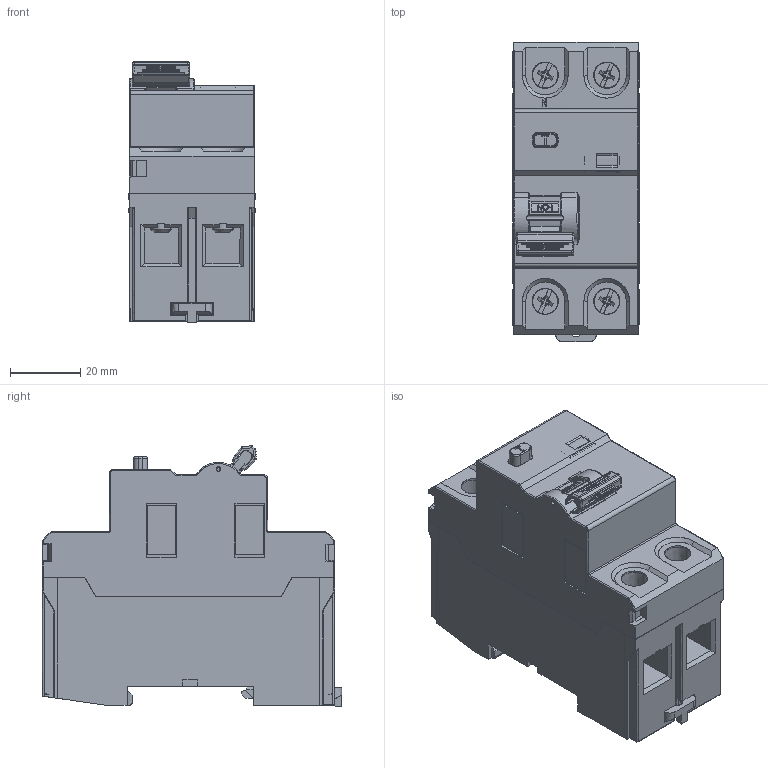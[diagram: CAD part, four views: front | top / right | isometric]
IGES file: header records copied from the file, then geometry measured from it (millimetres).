
Start section: SolidWorks IGES file using analytic representation for surfaces
Global section: file name: \\Brjgs100\dfsweg\GROUPS\BR_SC_JGS_WA_TECNICO\ENG\Usuarios\Rodrigob\conversão\Linha Predial\Produto\Interruptores diferenciais-residuais RDW\RDW\RDW-RDWS-RDWH_2\RDW-RDWS-RDWH_2.IGS; native system: SolidWorks 2018; preprocessor: SolidWorks 2018; author: rodrigob; date: 190624.104333; units: millimetre
Bounding box: 35.8 x 85 x 74.12 mm (x, y, z)
Surface area: 36823.4 mm2 (no closed solid volume)
Topology: 0 solids, 0 shells, 1317 faces, 10741 edges, 10719 vertices
Faces by surface type: bspline 995, revolution 322
